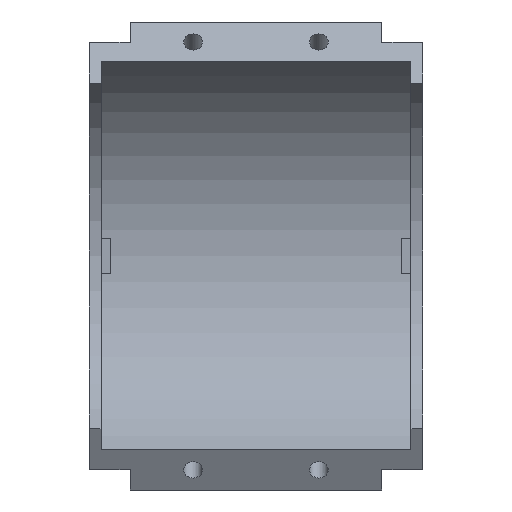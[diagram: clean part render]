
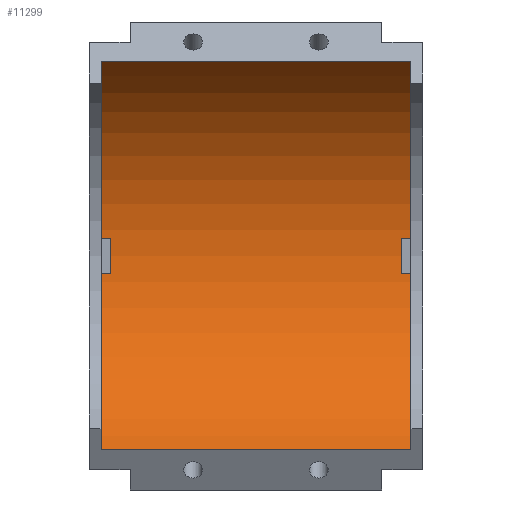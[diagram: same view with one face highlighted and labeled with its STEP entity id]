
A CAD part, top view. The second image highlights one B-rep face of the part: STEP entity #11299.
In plain terms, the highlighted cylindrical face has radius 38.3 mm (diameter 76.6 mm), a partial arc.
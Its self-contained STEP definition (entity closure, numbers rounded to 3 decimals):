
#44 = PLANE('',#45);
#45 = AXIS2_PLACEMENT_3D('',#46,#47,#48);
#46 = CARTESIAN_POINT('',(-29.5,-173.205,-100.));
#47 = DIRECTION('',(0.,-0.5,0.866));
#48 = DIRECTION('',(0.,0.866,0.5));
#101 = PLANE('',#102);
#102 = AXIS2_PLACEMENT_3D('',#103,#104,#105);
#103 = CARTESIAN_POINT('',(-29.5,0.,0.));
#104 = DIRECTION('',(0.,0.5,0.866));
#105 = DIRECTION('',(0.,0.866,-0.5));
#4377 = VERTEX_POINT('',#4378);
#4378 = CARTESIAN_POINT('',(30.5,-33.169,-19.15));
#4392 = PLANE('',#4393);
#4393 = AXIS2_PLACEMENT_3D('',#4394,#4395,#4396);
#4394 = CARTESIAN_POINT('',(30.5,0.,0.
    ));
#4395 = DIRECTION('',(1.,0.,0.));
#4396 = DIRECTION('',(0.,0.,-1.));
#4404 = EDGE_CURVE('',#4377,#4405,#4407,.T.);
#4405 = VERTEX_POINT('',#4406);
#4406 = CARTESIAN_POINT('',(-22.5,-33.169,-19.15));
#4407 = SURFACE_CURVE('',#4408,(#4412,#4419),.PCURVE_S1.);
#4408 = LINE('',#4409,#4410);
#4409 = CARTESIAN_POINT('',(30.5,-33.169,-19.15));
#4410 = VECTOR('',#4411,1.);
#4411 = DIRECTION('',(-1.,-0.,0.));
#4412 = PCURVE('',#44,#4413);
#4413 = DEFINITIONAL_REPRESENTATION('',(#4414),#4418);
#4414 = LINE('',#4415,#4416);
#4415 = CARTESIAN_POINT('',(161.7,-60.));
#4416 = VECTOR('',#4417,1.);
#4417 = DIRECTION('',(0.,1.));
#4418 = ( GEOMETRIC_REPRESENTATION_CONTEXT(2) 
PARAMETRIC_REPRESENTATION_CONTEXT() REPRESENTATION_CONTEXT('2D SPACE',''
  ) );
#4419 = PCURVE('',#4420,#4425);
#4420 = CYLINDRICAL_SURFACE('',#4421,38.3);
#4421 = AXIS2_PLACEMENT_3D('',#4422,#4423,#4424);
#4422 = CARTESIAN_POINT('',(-24.5,0.,
    0.));
#4423 = DIRECTION('',(-1.,0.,0.));
#4424 = DIRECTION('',(0.,-1.,0.));
#4425 = DEFINITIONAL_REPRESENTATION('',(#4426),#4430);
#4426 = LINE('',#4427,#4428);
#4427 = CARTESIAN_POINT('',(-0.524,-55.));
#4428 = VECTOR('',#4429,1.);
#4429 = DIRECTION('',(-0.,1.));
#4430 = ( GEOMETRIC_REPRESENTATION_CONTEXT(2) 
PARAMETRIC_REPRESENTATION_CONTEXT() REPRESENTATION_CONTEXT('2D SPACE',''
  ) );
#4448 = PLANE('',#4449);
#4449 = AXIS2_PLACEMENT_3D('',#4450,#4451,#4452);
#4450 = CARTESIAN_POINT('',(-22.5,0.,
    0.));
#4451 = DIRECTION('',(1.,0.,0.));
#4452 = DIRECTION('',(0.,0.,-1.));
#5020 = EDGE_CURVE('',#5021,#5023,#5025,.T.);
#5021 = VERTEX_POINT('',#5022);
#5022 = CARTESIAN_POINT('',(-22.5,33.169,-19.15));
#5023 = VERTEX_POINT('',#5024);
#5024 = CARTESIAN_POINT('',(30.5,33.169,-19.15));
#5025 = SURFACE_CURVE('',#5026,(#5030,#5037),.PCURVE_S1.);
#5026 = LINE('',#5027,#5028);
#5027 = CARTESIAN_POINT('',(-22.5,33.169,-19.15));
#5028 = VECTOR('',#5029,1.);
#5029 = DIRECTION('',(1.,0.,0.));
#5030 = PCURVE('',#101,#5031);
#5031 = DEFINITIONAL_REPRESENTATION('',(#5032),#5036);
#5032 = LINE('',#5033,#5034);
#5033 = CARTESIAN_POINT('',(38.3,-7.));
#5034 = VECTOR('',#5035,1.);
#5035 = DIRECTION('',(0.,-1.));
#5036 = ( GEOMETRIC_REPRESENTATION_CONTEXT(2) 
PARAMETRIC_REPRESENTATION_CONTEXT() REPRESENTATION_CONTEXT('2D SPACE',''
  ) );
#5037 = PCURVE('',#4420,#5038);
#5038 = DEFINITIONAL_REPRESENTATION('',(#5039),#5043);
#5039 = LINE('',#5040,#5041);
#5040 = CARTESIAN_POINT('',(-2.618,-2.));
#5041 = VECTOR('',#5042,1.);
#5042 = DIRECTION('',(-0.,-1.));
#5043 = ( GEOMETRIC_REPRESENTATION_CONTEXT(2) 
PARAMETRIC_REPRESENTATION_CONTEXT() REPRESENTATION_CONTEXT('2D SPACE',''
  ) );
#11157 = EDGE_CURVE('',#5023,#4377,#11158,.T.);
#11158 = SURFACE_CURVE('',#11159,(#11164,#11175),.PCURVE_S1.);
#11159 = CIRCLE('',#11160,38.3);
#11160 = AXIS2_PLACEMENT_3D('',#11161,#11162,#11163);
#11161 = CARTESIAN_POINT('',(30.5,0.,
    0.));
#11162 = DIRECTION('',(-1.,0.,0.));
#11163 = DIRECTION('',(0.,-1.,0.));
#11164 = PCURVE('',#4392,#11165);
#11165 = DEFINITIONAL_REPRESENTATION('',(#11166),#11174);
#11166 = ( BOUNDED_CURVE() B_SPLINE_CURVE(2,(#11167,#11168,#11169,#11170
    ,#11171,#11172,#11173),.UNSPECIFIED.,.T.,.F.) 
B_SPLINE_CURVE_WITH_KNOTS((1,2,2,2,2,1),(-2.094,0.,
    2.094,4.189,6.283,8.378),
.UNSPECIFIED.) CURVE() GEOMETRIC_REPRESENTATION_ITEM() 
RATIONAL_B_SPLINE_CURVE((1.,0.5,1.,0.5,1.,0.5,1.)) REPRESENTATION_ITEM(
  '') );
#11167 = CARTESIAN_POINT('',(0.,-38.3));
#11168 = CARTESIAN_POINT('',(-66.338,-38.3));
#11169 = CARTESIAN_POINT('',(-33.169,19.15));
#11170 = CARTESIAN_POINT('',(0.,76.6));
#11171 = CARTESIAN_POINT('',(33.169,19.15));
#11172 = CARTESIAN_POINT('',(66.338,-38.3));
#11173 = CARTESIAN_POINT('',(0.,-38.3));
#11174 = ( GEOMETRIC_REPRESENTATION_CONTEXT(2) 
PARAMETRIC_REPRESENTATION_CONTEXT() REPRESENTATION_CONTEXT('2D SPACE',''
  ) );
#11175 = PCURVE('',#4420,#11176);
#11176 = DEFINITIONAL_REPRESENTATION('',(#11177),#11181);
#11177 = LINE('',#11178,#11179);
#11178 = CARTESIAN_POINT('',(-6.283,-55.));
#11179 = VECTOR('',#11180,1.);
#11180 = DIRECTION('',(1.,-0.));
#11181 = ( GEOMETRIC_REPRESENTATION_CONTEXT(2) 
PARAMETRIC_REPRESENTATION_CONTEXT() REPRESENTATION_CONTEXT('2D SPACE',''
  ) );
#11299 = ADVANCED_FACE('',(#11300),#4420,.F.);
#11300 = FACE_BOUND('',#11301,.T.);
#11301 = EDGE_LOOP('',(#11302,#11303,#11304,#11330));
#11302 = ORIENTED_EDGE('',*,*,#11157,.F.);
#11303 = ORIENTED_EDGE('',*,*,#5020,.F.);
#11304 = ORIENTED_EDGE('',*,*,#11305,.T.);
#11305 = EDGE_CURVE('',#5021,#4405,#11306,.T.);
#11306 = SURFACE_CURVE('',#11307,(#11312,#11319),.PCURVE_S1.);
#11307 = CIRCLE('',#11308,38.3);
#11308 = AXIS2_PLACEMENT_3D('',#11309,#11310,#11311);
#11309 = CARTESIAN_POINT('',(-22.5,0.,
    0.));
#11310 = DIRECTION('',(-1.,0.,0.));
#11311 = DIRECTION('',(0.,-1.,0.));
#11312 = PCURVE('',#4420,#11313);
#11313 = DEFINITIONAL_REPRESENTATION('',(#11314),#11318);
#11314 = LINE('',#11315,#11316);
#11315 = CARTESIAN_POINT('',(-6.283,-2.));
#11316 = VECTOR('',#11317,1.);
#11317 = DIRECTION('',(1.,-0.));
#11318 = ( GEOMETRIC_REPRESENTATION_CONTEXT(2) 
PARAMETRIC_REPRESENTATION_CONTEXT() REPRESENTATION_CONTEXT('2D SPACE',''
  ) );
#11319 = PCURVE('',#4448,#11320);
#11320 = DEFINITIONAL_REPRESENTATION('',(#11321),#11329);
#11321 = ( BOUNDED_CURVE() B_SPLINE_CURVE(2,(#11322,#11323,#11324,#11325
    ,#11326,#11327,#11328),.UNSPECIFIED.,.T.,.F.) 
B_SPLINE_CURVE_WITH_KNOTS((1,2,2,2,2,1),(-2.094,0.,
    2.094,4.189,6.283,8.378),
.UNSPECIFIED.) CURVE() GEOMETRIC_REPRESENTATION_ITEM() 
RATIONAL_B_SPLINE_CURVE((1.,0.5,1.,0.5,1.,0.5,1.)) REPRESENTATION_ITEM(
  '') );
#11322 = CARTESIAN_POINT('',(0.,-38.3));
#11323 = CARTESIAN_POINT('',(-66.338,-38.3));
#11324 = CARTESIAN_POINT('',(-33.169,19.15));
#11325 = CARTESIAN_POINT('',(0.,76.6));
#11326 = CARTESIAN_POINT('',(33.169,19.15));
#11327 = CARTESIAN_POINT('',(66.338,-38.3));
#11328 = CARTESIAN_POINT('',(0.,-38.3));
#11329 = ( GEOMETRIC_REPRESENTATION_CONTEXT(2) 
PARAMETRIC_REPRESENTATION_CONTEXT() REPRESENTATION_CONTEXT('2D SPACE',''
  ) );
#11330 = ORIENTED_EDGE('',*,*,#4404,.F.);
